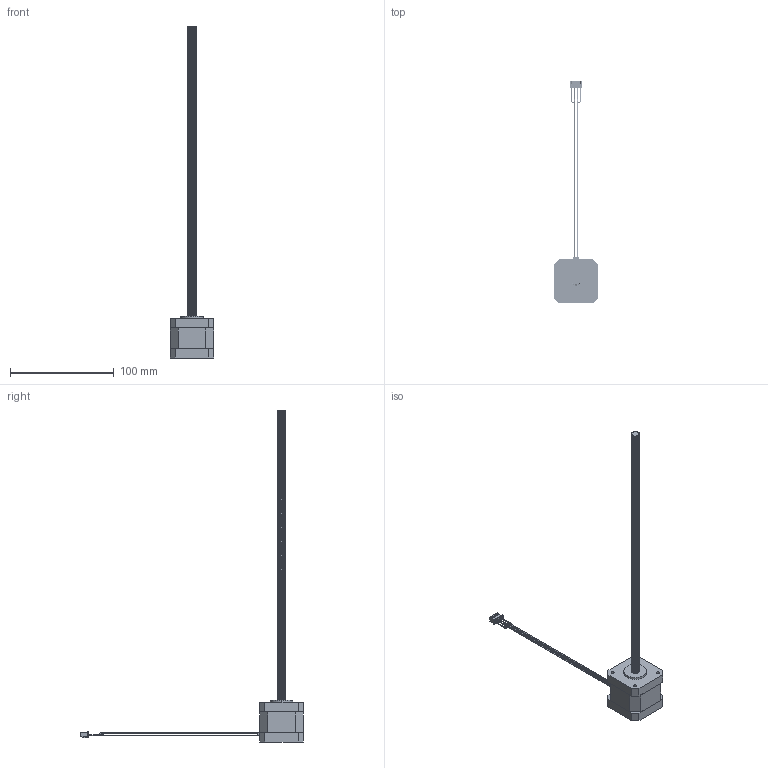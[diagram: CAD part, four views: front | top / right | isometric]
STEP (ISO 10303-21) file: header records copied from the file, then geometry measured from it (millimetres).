
FILE_DESCRIPTION (( 'STEP AP214' ), '1' );
FILE_NAME ('1159-B2P-D.STEP', '2016-05-17T08:45:19', ( '' ), ( '' ), 'SwSTEP 2.0', 'SolidWorks 2015', '' );
FILE_SCHEMA (( 'AUTOMOTIVE_DESIGN' ));
Length unit declared in the file: millimetre
Products named in the file (1): 1159-B2P-D
Bounding box: 42.3 x 214.8 x 320 mm (x, y, z)
Volume: 78919.8 mm3; surface area: 23599.1 mm2
Topology: 2 solids, 2 shells, 578 faces, 1638 edges, 1080 vertices
Faces by surface type: cylinder 408, plane 142, torus 16, bspline 12
Entity records: 71581 total; most frequent: CARTESIAN_POINT 57689, ORIENTED_EDGE 3276, DIRECTION 2084, EDGE_CURVE 1638, VERTEX_POINT 1080, LINE 754, VECTOR 754, AXIS2_PLACEMENT_3D 665
